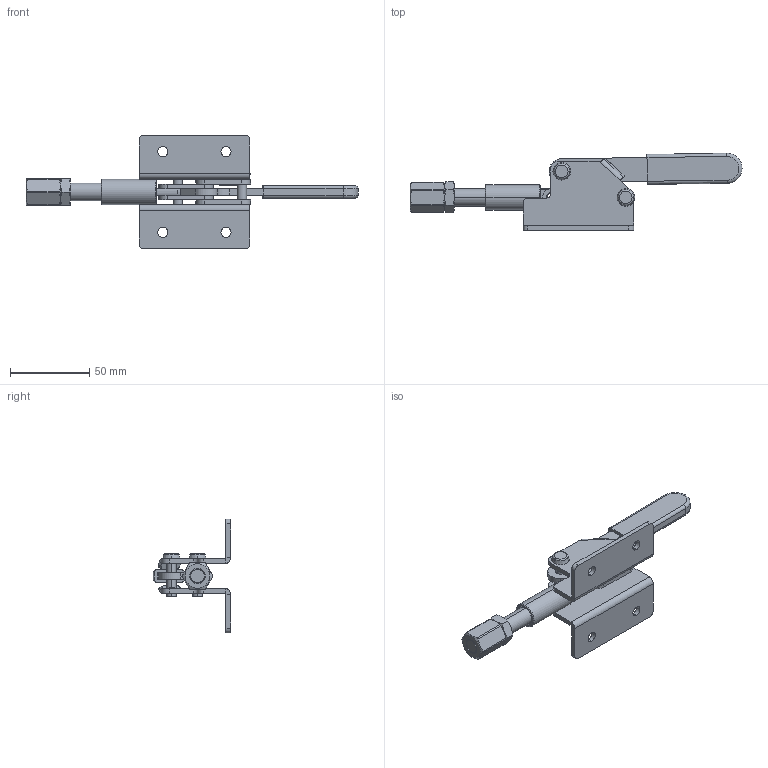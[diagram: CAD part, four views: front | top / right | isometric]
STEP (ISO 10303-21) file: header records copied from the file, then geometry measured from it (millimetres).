
FILE_DESCRIPTION (( 'STEP AP203' ), '1' );
FILE_NAME ('ISK-51BX小0.STEP', '2016-02-29T09:05:10', ( '' ), ( '' ), 'SwSTEP 2.0', 'SolidWorks 2016', '' );
FILE_SCHEMA (( 'CONFIG_CONTROL_DESIGN' ));
Length unit declared in the file: millimetre
Products named in the file (14): Base-L; Grip; Guide; hexagon nut_3_jis_JIS B 1181 Hexagon nut - Class 3 Finished M10 --N; Base; H-Nut_M10L22; Handle; cone head semi-tubuler rivets gb_GB_OTHERRIVETS_TYPE89 6X24; Arm; ISK-51BX小0; Link-L; Link-S; Base-R; Pin
Assembly tree (16 placements, depth 3):
  ISK-51BX小0
    Base
      Base-R
      Base-L
      Guide
    Handle
    Arm
    Link-L  x2
    Link-S  x2
    Pin
    Grip
    hexagon nut_3_jis_JIS B 1181 Hexagon nut - Class 3 Finished M10 --N
    H-Nut_M10L22
    cone head semi-tubuler rivets gb_GB_OTHERRIVETS_TYPE89 6X24  x2
Bounding box: 209.98 x 48.93 x 72 mm (x, y, z)
Volume: 60409.7 mm3; surface area: 44317.5 mm2
Topology: 15 solids, 15 shells, 281 faces, 664 edges, 414 vertices
Faces by surface type: cylinder 116, plane 107, cone 44, torus 14
Entity records: 8957 total; most frequent: CARTESIAN_POINT 1595, DIRECTION 1282, ORIENTED_EDGE 1156, EDGE_CURVE 578, AXIS2_PLACEMENT_3D 504, VERTEX_POINT 361, EDGE_LOOP 283, VECTOR 274
